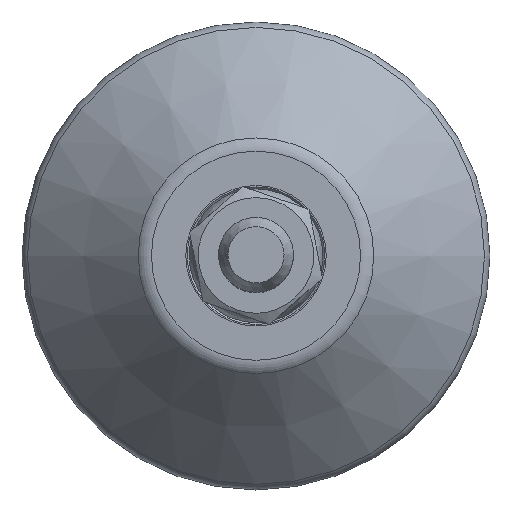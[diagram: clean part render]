
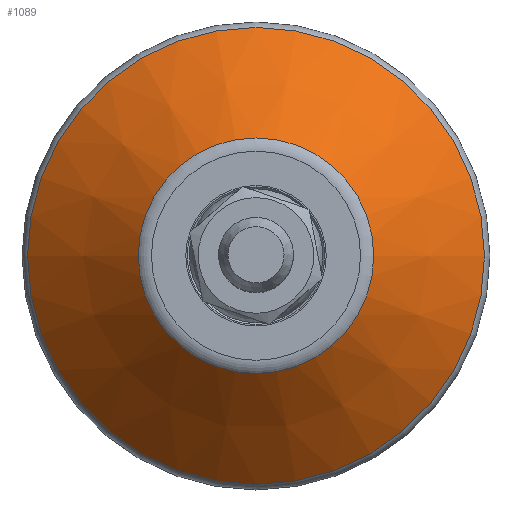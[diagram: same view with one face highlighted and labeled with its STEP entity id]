
A CAD part, top view. The second image highlights one B-rep face of the part: STEP entity #1089.
In plain terms, the highlighted conical face has half-angle 45 degrees and reference radius 18.5 mm.
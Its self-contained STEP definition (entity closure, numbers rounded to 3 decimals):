
#1089=ADVANCED_FACE('',(#2583,#2585),#2587,.T.);
#2583=FACE_BOUND('',#2584,.T.);
#2584=EDGE_LOOP('',(#3760,#3761));
#2585=FACE_BOUND('',#2586,.T.);
#2586=EDGE_LOOP('',(#3762,#3763));
#2587=CONICAL_SURFACE('',#2588,18.5,0.785);
#2588=AXIS2_PLACEMENT_3D('',#2589,#2590,#2591);
#2589=CARTESIAN_POINT('',(0.,0.,11.5));
#2590=DIRECTION('',(0.,0.,-1.));
#2591=DIRECTION('',(1.,0.,0.));
#3760=ORIENTED_EDGE('',*,*,#4493,.T.);
#3761=ORIENTED_EDGE('',*,*,#4492,.T.);
#3762=ORIENTED_EDGE('',*,*,#4496,.F.);
#3763=ORIENTED_EDGE('',*,*,#4497,.F.);
#4492=EDGE_CURVE('',#5210,#5211,#5212,.T.);
#4493=EDGE_CURVE('',#5211,#5210,#5213,.T.);
#4496=EDGE_CURVE('',#5218,#5219,#5220,.T.);
#4497=EDGE_CURVE('',#5219,#5218,#5221,.T.);
#5210=VERTEX_POINT('',#7869);
#5211=VERTEX_POINT('',#7870);
#5212=CIRCLE('',#7871,24.414);
#5213=CIRCLE('',#7875,24.414);
#5218=VERTEX_POINT('',#7889);
#5219=VERTEX_POINT('',#7890);
#5220=CIRCLE('',#7891,12.586);
#5221=CIRCLE('',#7895,12.586);
#7869=CARTESIAN_POINT('',(-24.414,0.,5.586));
#7870=CARTESIAN_POINT('',(24.414,0.,5.586));
#7871=AXIS2_PLACEMENT_3D('',#7872,#7873,#7874);
#7872=CARTESIAN_POINT('',(0.,0.,5.586));
#7873=DIRECTION('',(0.,0.,1.));
#7874=DIRECTION('',(-1.,0.,0.));
#7875=AXIS2_PLACEMENT_3D('',#7876,#7877,#7878);
#7876=CARTESIAN_POINT('',(0.,0.,5.586));
#7877=DIRECTION('',(0.,0.,1.));
#7878=DIRECTION('',(1.,0.,0.));
#7889=CARTESIAN_POINT('',(-12.586,0.,17.414));
#7890=CARTESIAN_POINT('',(12.586,0.,17.414));
#7891=AXIS2_PLACEMENT_3D('',#7892,#7893,#7894);
#7892=CARTESIAN_POINT('',(0.,0.,17.414));
#7893=DIRECTION('',(0.,0.,1.));
#7894=DIRECTION('',(-1.,0.,0.));
#7895=AXIS2_PLACEMENT_3D('',#7896,#7897,#7898);
#7896=CARTESIAN_POINT('',(0.,0.,17.414));
#7897=DIRECTION('',(0.,0.,1.));
#7898=DIRECTION('',(1.,0.,0.));
